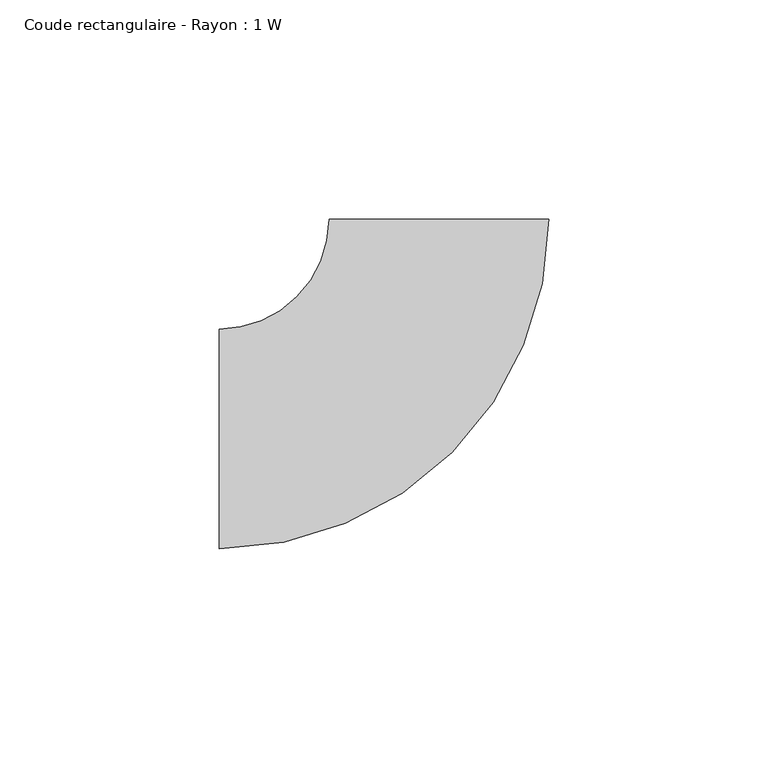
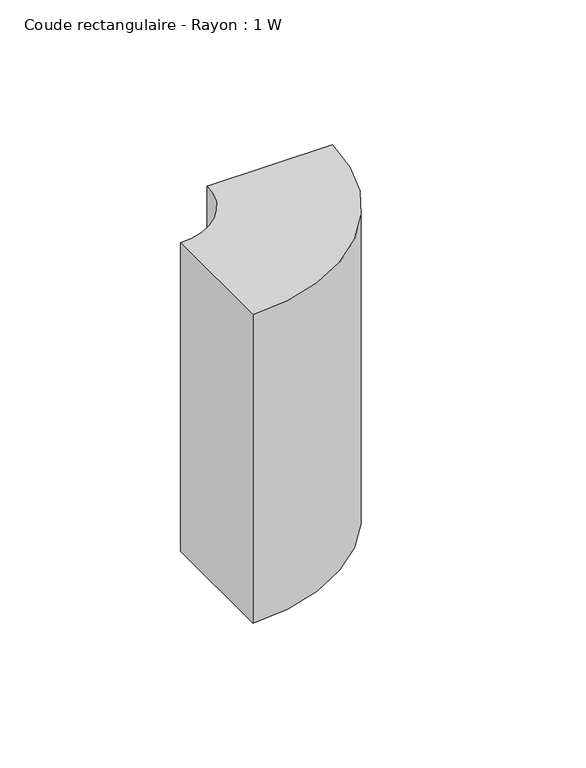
"""IFC4 building model written with IfcOpenShell, lengths in millimetres: duct fitting geometry, Coude rectangulaire - Rayon : 1 W."""

import ifcopenshell
import ifcopenshell.guid

model = None  # the IFC model being written
_history = None  # IfcOwnerHistory: only IFC2X3 demands one
_inside = {}  # id of a spatial element -> (the spatial element, [elements in it])
_under = {}  # id of a project, library or spatial element -> (it, [spatial elements below it])
_declared = {}  # id of a project -> (the project, [libraries it declares])
_typed = {}  # id of a type object -> (the type object, [elements of that type])
_made_of = {}  # id of a material, layer set ... -> (it, [elements and type objects made of it])


def new_model(schema):
    """Start an empty IFC model of exactly this schema.

    Asked for "IFC4X3", IfcOpenShell would pick the latest addendum, in which some entities
    have other attributes; the version numbers below select the first issue.
    IFC2X3 requires an IfcOwnerHistory on every rooted entity: one is made here for all.
    """
    global model, _history
    if schema == "IFC4X3":
        model = ifcopenshell.file(schema_version=(4, 3, 0, 0))
    else:
        model = ifcopenshell.file(schema=schema)
    _inside.clear()
    _under.clear()
    _declared.clear()
    _typed.clear()
    _made_of.clear()
    _history = None
    if model.schema == "IFC2X3":
        org = make("IfcOrganization", Name="unknown")
        user = make(
            "IfcPersonAndOrganization",
            ThePerson=make("IfcPerson", FamilyName="unknown"),
            TheOrganization=org,
        )
        app = make(
            "IfcApplication",
            ApplicationDeveloper=org,
            Version="unknown",
            ApplicationFullName="unknown",
            ApplicationIdentifier="unknown",
        )
        _history = make(
            "IfcOwnerHistory",
            OwningUser=user,
            OwningApplication=app,
            ChangeAction="ADDED",
            CreationDate=0,
        )
    return model


def make(cls, **values):
    """One entity of the class cls with the attributes given. An attribute that is None is left unset."""
    return model.create_entity(
        cls, **{name: value for name, value in values.items() if value is not None}
    )


def rooted(cls, **values):
    """An entity with a GlobalId (a new one), such as an element, a storey or a relation."""
    return make(cls, GlobalId=ifcopenshell.guid.new(), OwnerHistory=_history, **values)


def si_unit(unit_type, name, prefix=None):
    """IfcSIUnit, for example si_unit("LENGTHUNIT", "METRE", prefix="MILLI")."""
    return make("IfcSIUnit", UnitType=unit_type, Prefix=prefix, Name=name)


def assignment(units):
    """IfcUnitAssignment: the units of a project."""
    return None if units is None else make("IfcUnitAssignment", Units=units)


def point(xyz):
    """IfcCartesianPoint."""
    return None if xyz is None else make("IfcCartesianPoint", Coordinates=xyz)


def direction(xyz):
    """IfcDirection."""
    return None if xyz is None else make("IfcDirection", DirectionRatios=xyz)


def frame(location, z_axis=None, x_axis=None):
    """IfcAxis2Placement3D, a coordinate frame: its origin and axes. An axis left out is left unset."""
    return make(
        "IfcAxis2Placement3D",
        Location=point(location),
        Axis=direction(z_axis),
        RefDirection=direction(x_axis),
    )


def frame_2d(location, x_axis=None):
    """IfcAxis2Placement2D, a coordinate frame in the plane: its origin and x axis."""
    return make(
        "IfcAxis2Placement2D", Location=point(location), RefDirection=direction(x_axis)
    )


def origin():
    """The frame at (0, 0, 0) with its axes left unset."""
    return frame((0.0, 0.0, 0.0))


def place(relative_to, where):
    """IfcLocalPlacement: puts the frame where relative to a parent placement (None: the world)."""
    return make(
        "IfcLocalPlacement", PlacementRelTo=relative_to, RelativePlacement=where
    )


def context(
    kind, dimensions, precision=None, world=None, true_north=None, identifier=None
):
    """IfcGeometricRepresentationContext, for example the 3D "Model" context."""
    return make(
        "IfcGeometricRepresentationContext",
        ContextIdentifier=identifier,
        ContextType=kind,
        CoordinateSpaceDimension=dimensions,
        Precision=precision,
        WorldCoordinateSystem=world,
        TrueNorth=true_north,
    )


def project(units=None, contexts=None):
    """IfcProject with its units and contexts."""
    return rooted(
        "IfcProject",
        Name="project",
        RepresentationContexts=contexts,
        UnitsInContext=assignment(units),
    )


def spatial(cls, under=None, at=None, **own):
    """A site, building, storey or space (cls), placed at a placement, below another one or the project."""
    s = rooted(cls, ObjectPlacement=at, **own)
    if under is not None:
        _under.setdefault(under.id(), (under, []))[1].append(s)
    return s


def polyline(points):
    """IfcPolyline through the points."""
    return make("IfcPolyline", Points=[point(p) for p in points])


def circle_curve(where, radius):
    """IfcCircle in the frame where."""
    return make("IfcCircle", Position=where, Radius=radius)


def trimmed(basis, trim1, trim2, sense, master):
    """IfcTrimmedCurve: the piece of a basis curve between two trims."""
    return make(
        "IfcTrimmedCurve",
        BasisCurve=basis,
        Trim1=trim1,
        Trim2=trim2,
        SenseAgreement=sense,
        MasterRepresentation=master,
    )


def segment(curve, same_sense, transition):
    """IfcCompositeCurveSegment."""
    return make(
        "IfcCompositeCurveSegment",
        Transition=transition,
        SameSense=same_sense,
        ParentCurve=curve,
    )


def composite_curve(segments, self_intersect=None):
    """IfcCompositeCurve: segments joined end to end."""
    return make("IfcCompositeCurve", Segments=segments, SelfIntersect=self_intersect)


def outline(outer, holes=None, kind="AREA"):
    """IfcArbitraryClosedProfileDef: a profile drawn as a closed curve; with holes, ...WithVoids."""
    if holes is None:
        return make("IfcArbitraryClosedProfileDef", ProfileType=kind, OuterCurve=outer)
    return make(
        "IfcArbitraryProfileDefWithVoids",
        ProfileType=kind,
        OuterCurve=outer,
        InnerCurves=holes,
    )


def extrude(swept, where, along, depth):
    """IfcExtrudedAreaSolid: the profile swept, set in the frame where, extruded along a direction by depth."""
    return make(
        "IfcExtrudedAreaSolid",
        SweptArea=swept,
        Position=where,
        ExtrudedDirection=direction(along),
        Depth=depth,
    )


def shape(context_of_items, identifier, shape_type, items):
    """IfcShapeRepresentation: the items that make up one representation, for example the "Body"."""
    return make(
        "IfcShapeRepresentation",
        ContextOfItems=context_of_items,
        RepresentationIdentifier=identifier,
        RepresentationType=shape_type,
        Items=items,
    )


def source(mapping_origin, context_of_items, identifier, shape_type, items):
    """IfcRepresentationMap: a shape defined once, which mapped items show again and again."""
    return make(
        "IfcRepresentationMap",
        MappingOrigin=mapping_origin,
        MappedRepresentation=shape(context_of_items, identifier, shape_type, items),
    )


def transform(
    local_origin,
    x_axis=None,
    y_axis=None,
    z_axis=None,
    scale=None,
    scale2=None,
    scale3=None,
    uniform=True,
):
    """IfcCartesianTransformationOperator3D, or its non-uniform kind. x_axis, y_axis, z_axis: its Axis1, 2, 3."""
    if uniform:
        return make(
            "IfcCartesianTransformationOperator3D",
            Axis1=direction(x_axis),
            Axis2=direction(y_axis),
            LocalOrigin=point(local_origin),
            Scale=scale,
            Axis3=direction(z_axis),
        )
    return make(
        "IfcCartesianTransformationOperator3DnonUniform",
        Axis1=direction(x_axis),
        Axis2=direction(y_axis),
        LocalOrigin=point(local_origin),
        Scale=scale,
        Axis3=direction(z_axis),
        Scale2=scale2,
        Scale3=scale3,
    )


def mapped(mapping_source, mapping_target):
    """IfcMappedItem: shows the shape of a source again, moved by a transform."""
    return make(
        "IfcMappedItem", MappingSource=mapping_source, MappingTarget=mapping_target
    )


def made_of(thing, what):
    """Note that an element or type object is made of a material, layer set ...; save() writes the relation."""
    if what is not None:
        _made_of.setdefault(what.id(), (what, []))[1].append(thing)
    return thing


def element(
    cls,
    number,
    at=None,
    inside=None,
    cuts=None,
    type_object=None,
    material=None,
    context=None,
    identifier="Body",
    shape_type=None,
    held_by="IfcProductDefinitionShape",
    body=None,
    shapes=None,
    **own,
):
    """One element of the class cls, such as IfcWall. Its Tag is "e" and its number.

    at: its placement. inside: the storey or other place that contains it. cuts: it is an
    opening in that element (IfcRelVoidsElement). A single representation is given by context,
    identifier, shape_type and body (its items); several are given by shapes. held_by: the class
    of the entity that holds the representations. save() writes the other relations.
    """
    e = rooted(cls, Tag="e%d" % number, ObjectPlacement=at, **own)
    if body is not None:
        shapes = [shape(context, identifier, shape_type, body)]
    if shapes is not None:
        e.Representation = make(held_by, Representations=shapes)
    if inside is not None:
        _inside.setdefault(inside.id(), (inside, []))[1].append(e)
    if cuts is not None:
        rooted(
            "IfcRelVoidsElement", RelatingBuildingElement=cuts, RelatedOpeningElement=e
        )
    if type_object is not None:
        _typed.setdefault(type_object.id(), (type_object, []))[1].append(e)
    return made_of(e, material)


def aggregate(whole, parts):
    """IfcRelAggregates: a whole, such as a stair, and the parts it consists of."""
    return rooted("IfcRelAggregates", RelatingObject=whole, RelatedObjects=parts)


def save(model, path):
    """Write the relations noted so far, then the file.

    IfcRelAggregates (storeys below a building ...), IfcRelContainedInSpatialStructure (elements
    in a storey), IfcRelDefinesByType, IfcRelAssociatesMaterial and IfcRelDeclares: one each for
    every whole, place, type object, material and project.
    """
    for whole, parts in _under.values():
        aggregate(whole, parts)
    for where, things in _inside.values():
        rooted(
            "IfcRelContainedInSpatialStructure",
            RelatedElements=things,
            RelatingStructure=where,
        )
    for kind, things in _typed.values():
        rooted("IfcRelDefinesByType", RelatedObjects=things, RelatingType=kind)
    for what, things in _made_of.values():
        rooted("IfcRelAssociatesMaterial", RelatedObjects=things, RelatingMaterial=what)
    for by, libraries in _declared.values():
        rooted("IfcRelDeclares", RelatingContext=by, RelatedDefinitions=libraries)
    model.write(path)


def coude_rectangulaire_rayon_1_w_45743452(model_context):
    return source(origin(), model_context, "Body", "SweptSolid", [
        extrude(outline(composite_curve([segment(trimmed(circle_curve(frame_2d((-50.0, 50.0)), 75.0), [point((25.0, 50.0))], [point((-50.0, -25.0))], False, "CARTESIAN"), True, "CONTINUOUS"), segment(polyline([(-50.0, -25.0), (-50.0, 25.0)]), True, "CONTINUOUS"), segment(trimmed(circle_curve(frame_2d((-50.0, 50.0)), 25.0), [point((-50.0, 25.0))], [point((-25.0, 50.0))], True, "CARTESIAN"), True, "CONTINUOUS"), segment(polyline([(-25.0, 50.0), (25.0, 50.0)]), True, "CONTINUOUS")], self_intersect=False)), frame((0.0, 0.0, -65.0), z_axis=(0.0, 0.0, 1.0), x_axis=(1.0, 0.0, 0.0)), (0.0, 0.0, 1.0), 130.0),
    ])


if __name__ == "__main__":
    model = new_model("IFC4")
    model_context = context("Model", 3, world=origin())
    ifc_project = project(units=[si_unit("LENGTHUNIT", "METRE", prefix="MILLI")], contexts=[model_context])
    site = spatial("IfcSite", under=ifc_project)
    building = spatial("IfcBuilding", under=site)
    placement = place(None, origin())
    coude_rectangulaire_rayon_1_w_shape = coude_rectangulaire_rayon_1_w_45743452(model_context)
    element("IfcDuctFitting", 1, ObjectType="Coude rectangulaire - Rayon : 1 W", at=placement, inside=building, context=model_context, shape_type="MappedRepresentation", body=[
        mapped(coude_rectangulaire_rayon_1_w_shape, transform((0.0, 0.0, 0.0), x_axis=(1.0, 0.0, 0.0), y_axis=(0.0, 1.0, 0.0), z_axis=(0.0, 0.0, 1.0))),
    ])
    save(model, "model.ifc")
